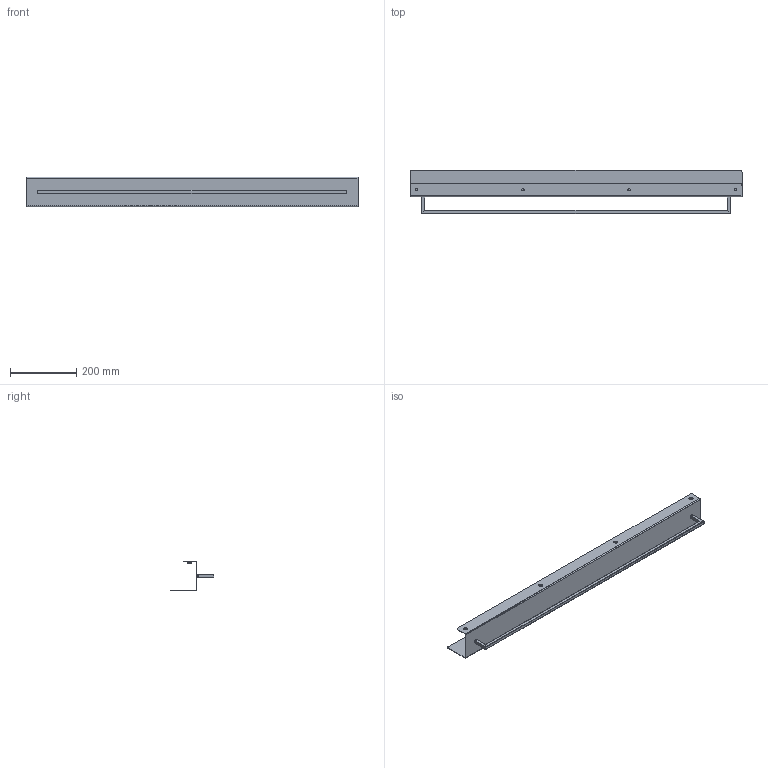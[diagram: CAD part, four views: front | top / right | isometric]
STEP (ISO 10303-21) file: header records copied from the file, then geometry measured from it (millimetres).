
FILE_DESCRIPTION (( 'STEP AP214' ), '1' );
FILE_NAME ('01-002-1000-W-00-00.STEP', '2024-06-03T11:30:43', ( '' ), ( '' ), 'SwSTEP 2.0', 'SolidWorks 2021', '' );
FILE_SCHEMA (( 'AUTOMOTIVE_DESIGN' ));
Length unit declared in the file: millimetre
Products named in the file (8): 01-002-1000-W-01-00; countersunk flat head cross recess screw_din_DIN EN ISO 7046-1 - M5 x 6 - Z - 6N; 01-002-1000-W-00-01; Nakrêtka klatkowa M5; zaœlepka œruby 13mm; 01-002-0400-W-01-02; 01-002-1000-W-01-03; 01-002-1000-W-00-00
Assembly tree (13 placements, depth 3):
  01-002-1000-W-00-00
    01-002-1000-W-00-01
    01-002-1000-W-01-00
      01-002-1000-W-01-03
      01-002-0400-W-01-02  x2
      Nakrêtka klatkowa M5  x2
    countersunk flat head cross recess screw_din_DIN EN ISO 7046-1 - M5 x 6 - Z - 6N  x2
    zaœlepka œruby 13mm  x4
Bounding box: 1000 x 130 x 90 mm (x, y, z)
Volume: 346002.1 mm3; surface area: 487553.8 mm2
Topology: 12 solids, 12 shells, 228 faces, 534 edges, 326 vertices
Faces by surface type: plane 114, cylinder 78, cone 16, torus 12, bspline 8
Entity records: 5053 total; most frequent: CARTESIAN_POINT 1667, DIRECTION 647, ORIENTED_EDGE 638, EDGE_CURVE 319, AXIS2_PLACEMENT_3D 231, VERTEX_POINT 197, VECTOR 185, LINE 185
